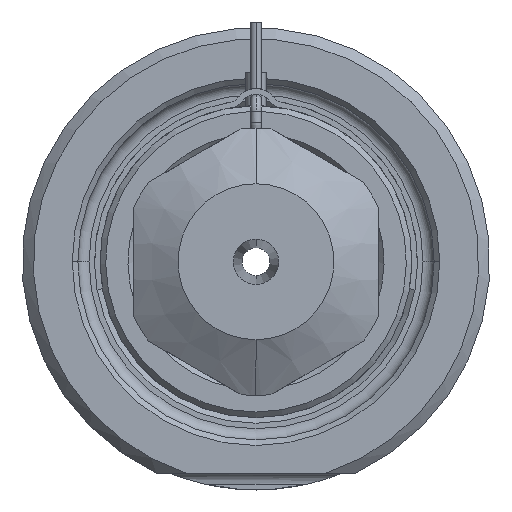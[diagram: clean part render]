
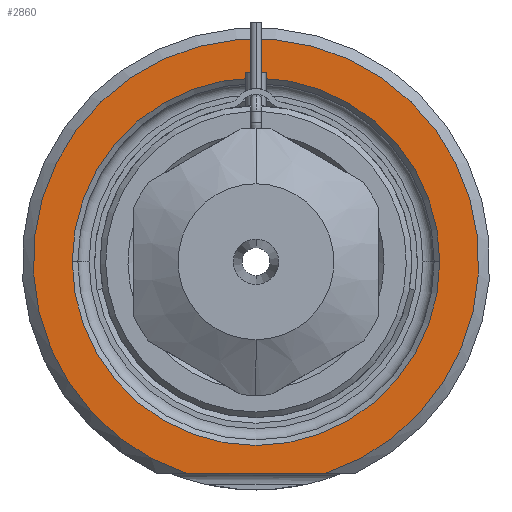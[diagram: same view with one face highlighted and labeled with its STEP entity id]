
A CAD part, front view. The second image highlights one B-rep face of the part: STEP entity #2860.
In plain terms, the highlighted planar face has unit normal (0, -1, 0).
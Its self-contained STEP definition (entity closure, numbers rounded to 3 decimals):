
#1=DIRECTION('',(1.,0.,0.));
#2=VECTOR('',#1,12.49);
#3=CARTESIAN_POINT('',(-6.245,0.,-19.));
#4=LINE('',#3,#2);
#5=CARTESIAN_POINT('',(0.,0.,0.));
#6=DIRECTION('',(0.,1.,0.));
#7=DIRECTION('',(-1.,0.,0.));
#8=AXIS2_PLACEMENT_3D('',#5,#6,#7);
#10=CARTESIAN_POINT('',(0.,0.,0.));
#11=DIRECTION('',(0.,1.,0.));
#12=DIRECTION('',(1.,0.,0.));
#13=AXIS2_PLACEMENT_3D('',#10,#11,#12);
#119=CARTESIAN_POINT('',(0.,0.,0.));
#120=DIRECTION('',(0.,-1.,0.));
#121=DIRECTION('',(0.312,0.,-0.95));
#122=AXIS2_PLACEMENT_3D('',#119,#120,#121);
#2380=CARTESIAN_POINT('',(-16.5,0.,0.));
#2381=CARTESIAN_POINT('',(16.5,0.,0.));
#2382=VERTEX_POINT('',#2380);
#2383=VERTEX_POINT('',#2381);
#2420=CARTESIAN_POINT('',(-6.245,0.,-19.));
#2421=CARTESIAN_POINT('',(6.245,0.,-19.));
#2422=VERTEX_POINT('',#2420);
#2423=VERTEX_POINT('',#2421);
#2843=CARTESIAN_POINT('',(0.,0.,0.));
#2844=DIRECTION('',(0.,-1.,0.));
#2845=DIRECTION('',(1.,0.,0.));
#2846=AXIS2_PLACEMENT_3D('',#2843,#2844,#2845);
#2847=PLANE('',#2846);
#2849=ORIENTED_EDGE('',*,*,#2848,.F.);
#2851=ORIENTED_EDGE('',*,*,#2850,.F.);
#2852=EDGE_LOOP('',(#2849,#2851));
#2853=FACE_OUTER_BOUND('',#2852,.F.);
#2855=ORIENTED_EDGE('',*,*,#2854,.F.);
#2857=ORIENTED_EDGE('',*,*,#2856,.F.);
#2858=EDGE_LOOP('',(#2855,#2857));
#2859=FACE_BOUND('',#2858,.F.);
#2860=ADVANCED_FACE('',(#2853,#2859),#2847,.T.);
#9=CIRCLE('',#8,16.5);
#14=CIRCLE('',#13,16.5);
#123=CIRCLE('',#122,20.);
#2848=EDGE_CURVE('',#2422,#2423,#4,.T.);
#2850=EDGE_CURVE('',#2423,#2422,#123,.T.);
#2854=EDGE_CURVE('',#2382,#2383,#9,.T.);
#2856=EDGE_CURVE('',#2383,#2382,#14,.T.);
